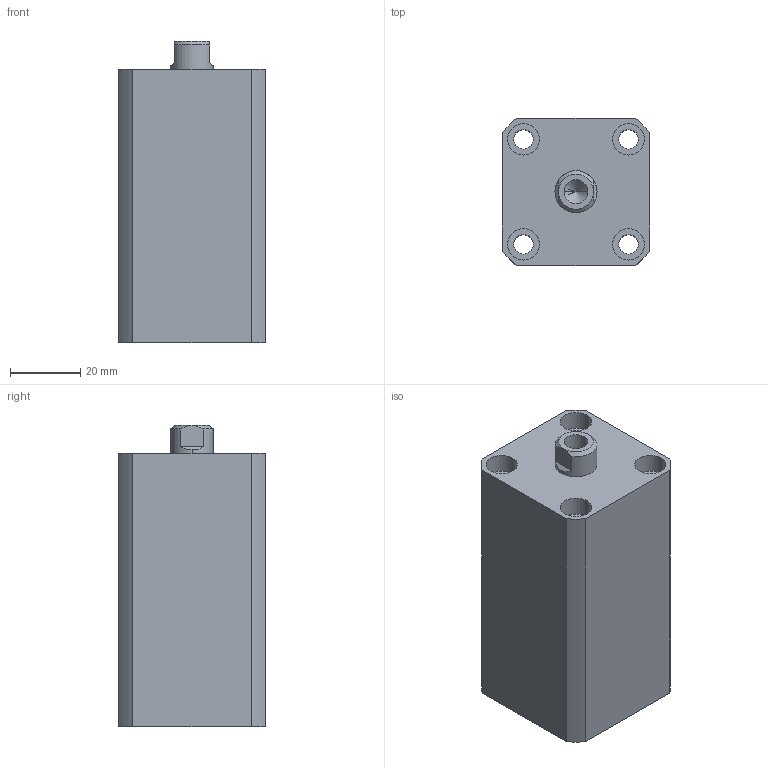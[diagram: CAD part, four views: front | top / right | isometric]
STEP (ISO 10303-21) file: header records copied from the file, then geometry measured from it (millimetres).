
FILE_DESCRIPTION (( 'STEP AP203' ), '1' );
FILE_NAME ('HTB-SDMB20-35N.STEP', '2019-10-08T11:55:53', ( '微软用户' ), ( '微软中国' ), 'SwSTEP 2.0', 'SolidWorks 2012', '' );
FILE_SCHEMA (( 'CONFIG_CONTROL_DESIGN' ));
Length unit declared in the file: millimetre
Products named in the file (3): HTB-SDMB20-35掛极; HTB-SDMB20-35N活塞杆; HTB-SDMB20-35N
Assembly tree (2 placements, depth 2):
  HTB-SDMB20-35N
    HTB-SDMB20-35掛极
    HTB-SDMB20-35N活塞杆
Bounding box: 42 x 42 x 86 mm (x, y, z)
Volume: 118826.1 mm3; surface area: 30299.5 mm2
Topology: 2 solids, 2 shells, 136 faces, 326 edges, 213 vertices
Faces by surface type: plane 64, cylinder 46, bspline 16, torus 6, cone 4
Entity records: 5023 total; most frequent: CARTESIAN_POINT 1570, ORIENTED_EDGE 648, DIRECTION 640, EDGE_CURVE 324, AXIS2_PLACEMENT_3D 231, VERTEX_POINT 213, VECTOR 178, LINE 178
